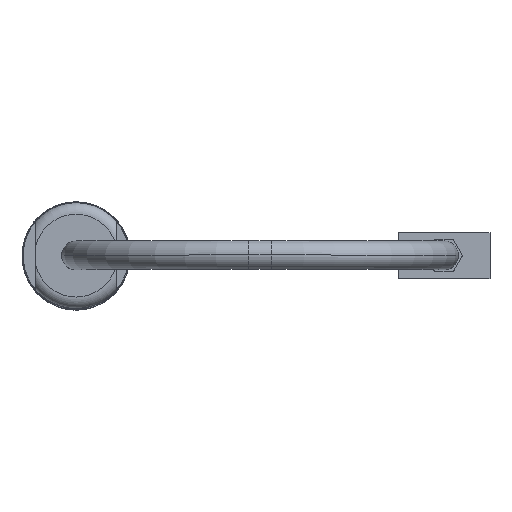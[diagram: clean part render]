
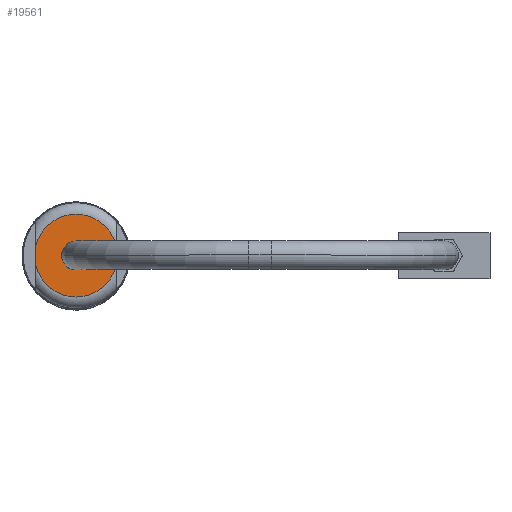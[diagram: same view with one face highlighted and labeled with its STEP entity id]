
A CAD part, top view. The second image highlights one B-rep face of the part: STEP entity #19561.
In plain terms, the highlighted planar face has unit normal (0, 0, 1) as drawn and (1, 0, 0) by its records, which use the part's own axes.
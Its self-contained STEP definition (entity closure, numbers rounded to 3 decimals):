
#17692=DIRECTION('',(0.,0.,-1.));
#17693=VECTOR('',#17692,1.685);
#17694=CARTESIAN_POINT('',(37.26,3.5,0.843));
#17695=LINE('',#17694,#17693);
#17699=DIRECTION('',(0.,0.,-1.));
#17700=VECTOR('',#17699,1.685);
#17701=CARTESIAN_POINT('',(37.26,-3.5,0.843));
#17702=LINE('',#17701,#17700);
#19219=CARTESIAN_POINT('',(37.26,0.,0.));
#19220=DIRECTION('',(1.,0.,0.));
#19221=DIRECTION('',(0.,0.972,0.234));
#19222=AXIS2_PLACEMENT_3D('',#19219,#19220,#19221);
#19247=CARTESIAN_POINT('',(37.26,3.5,0.843));
#19267=CARTESIAN_POINT('',(37.26,-3.5,-0.843));
#19287=CARTESIAN_POINT('',(37.26,0.,0.));
#19288=DIRECTION('',(1.,0.,0.));
#19289=DIRECTION('',(0.,-0.972,-0.234));
#19290=AXIS2_PLACEMENT_3D('',#19287,#19288,#19289);
#19494=VERTEX_POINT('',#19247);
#19495=VERTEX_POINT('',#19267);
#19500=CARTESIAN_POINT('',(37.26,3.5,-0.843));
#19501=VERTEX_POINT('',#19500);
#19502=CARTESIAN_POINT('',(37.26,-3.5,0.843));
#19503=VERTEX_POINT('',#19502);
#19546=CARTESIAN_POINT('',(37.26,0.,0.));
#19547=DIRECTION('',(-1.,0.,0.));
#19548=DIRECTION('',(0.,0.,-1.));
#19549=AXIS2_PLACEMENT_3D('',#19546,#19547,#19548);
#19550=PLANE('',#19549);
#19552=ORIENTED_EDGE('',*,*,#19551,.T.);
#19554=ORIENTED_EDGE('',*,*,#19553,.F.);
#19556=ORIENTED_EDGE('',*,*,#19555,.F.);
#19558=ORIENTED_EDGE('',*,*,#19557,.F.);
#19559=EDGE_LOOP('',(#19552,#19554,#19556,#19558));
#19560=FACE_OUTER_BOUND('',#19559,.F.);
#19561=ADVANCED_FACE('',(#19560),#19550,.F.);
#19223=CIRCLE('',#19222,3.6);
#19291=CIRCLE('',#19290,3.6);
#19551=EDGE_CURVE('',#19494,#19501,#17695,.T.);
#19553=EDGE_CURVE('',#19495,#19501,#19291,.T.);
#19555=EDGE_CURVE('',#19503,#19495,#17702,.T.);
#19557=EDGE_CURVE('',#19494,#19503,#19223,.T.);
